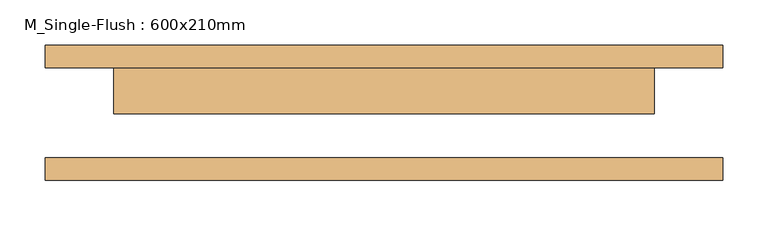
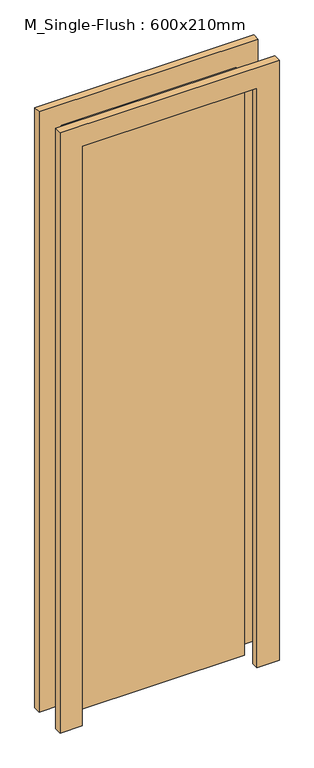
"""IFC4 building model written with IfcOpenShell, lengths in millimetres: door geometry, M_Single-Flush : 600x210mm."""

from ifc_helpers import new_model, si_unit, frame, origin, origin_with_axes, place, context, project, spatial, polyline, outline, extrude, source, transform, mapped, element, save


def m_single_flush_600x210mm_be854fa6(model_context):
    return source(origin(), model_context, "Body", "SweptSolid", [
        extrude(outline(polyline([(300.0, -1.0), (-300.0, -1.0), (-300.0, 50.0), (300.0, 50.0), (300.0, -1.0)])), origin_with_axes(), (0.0, 0.0, 1.0), 2100.0),
        extrude(outline(polyline([(2176.0, -376.0), (0.0, -376.0), (0.0, -300.0), (2100.0, -300.0), (2100.0, 300.0), (0.0, 300.0), (0.0, 376.0), (2176.0, 376.0), (2176.0, -376.0)])), frame((0.0, 50.0, 0.0), z_axis=(0.0, 1.0, 0.0), x_axis=(0.0, 0.0, 1.0)), (0.0, 0.0, 1.0), 25.0),
        extrude(outline(polyline([(2176.0, 376.0), (2176.0, -376.0), (0.0, -376.0), (0.0, -300.0), (2100.0, -300.0), (2100.0, 300.0), (0.0, 300.0), (0.0, 376.0), (2176.0, 376.0)])), frame((0.0, -75.0, 0.0), z_axis=(0.0, 1.0, 0.0), x_axis=(0.0, 0.0, 1.0)), (0.0, 0.0, 1.0), 25.0),
    ])


if __name__ == "__main__":
    model = new_model("IFC4")
    model_context = context("Model", 3, world=origin())
    ifc_project = project(units=[si_unit("LENGTHUNIT", "METRE", prefix="MILLI")], contexts=[model_context])
    site = spatial("IfcSite", under=ifc_project)
    building = spatial("IfcBuilding", under=site)
    placement = place(None, origin())
    m_single_flush_600x210mm_shape = m_single_flush_600x210mm_be854fa6(model_context)
    element("IfcDoor", 1, ObjectType="M_Single-Flush : 600x210mm", at=placement, inside=building, context=model_context, shape_type="MappedRepresentation", body=[
        mapped(m_single_flush_600x210mm_shape, transform((0.0, 0.0, 0.0), x_axis=(1.0, 0.0, 0.0), y_axis=(0.0, 1.0, 0.0), z_axis=(0.0, 0.0, 1.0))),
    ])
    save(model, "model.ifc")
